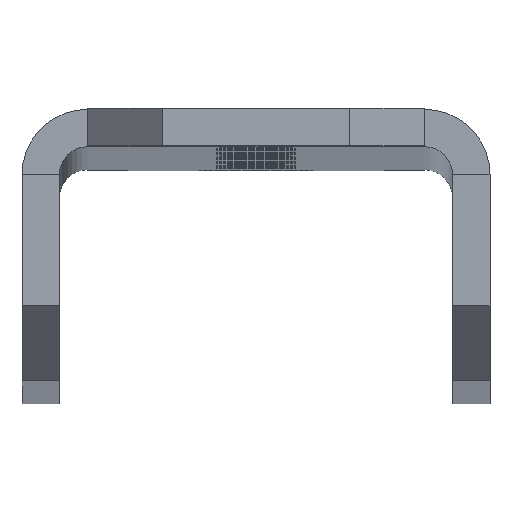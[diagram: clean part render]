
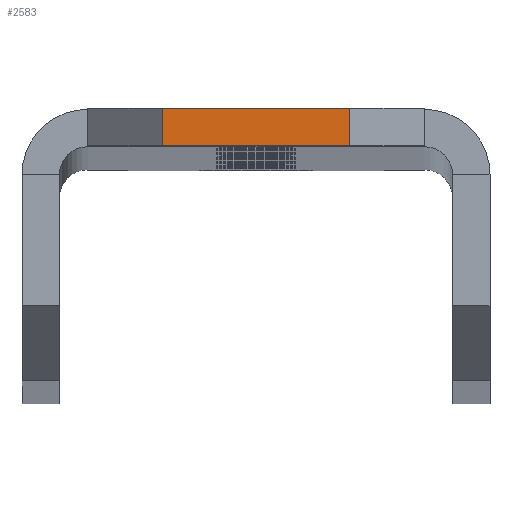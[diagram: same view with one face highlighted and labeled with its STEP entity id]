
A CAD part, top view. The second image highlights one B-rep face of the part: STEP entity #2583.
In plain terms, the highlighted planar face has unit normal (0, 0, 1).
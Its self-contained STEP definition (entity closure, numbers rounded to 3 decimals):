
#206 = VERTEX_POINT ( 'NONE', #2254 ) ;
#230 = ORIENTED_EDGE ( 'NONE', *, *, #3334, .T. ) ;
#506 = LINE ( 'NONE', #1172, #803 ) ;
#646 = EDGE_LOOP ( 'NONE', ( #2762, #230, #3855, #2182 ) ) ;
#771 = CARTESIAN_POINT ( 'NONE',  ( -5., -2., 380.155 ) ) ;
#803 = VECTOR ( 'NONE', #1541, 1000. ) ;
#949 = LINE ( 'NONE', #1373, #3585 ) ;
#963 = VERTEX_POINT ( 'NONE', #1654 ) ;
#1172 = CARTESIAN_POINT ( 'NONE',  ( 5., 0., 380.155 ) ) ;
#1262 = CARTESIAN_POINT ( 'NONE',  ( 9., 0., 380.155 ) ) ;
#1373 = CARTESIAN_POINT ( 'NONE',  ( 9., -2., 380.155 ) ) ;
#1416 = FACE_OUTER_BOUND ( 'NONE', #646, .T. ) ;
#1488 = DIRECTION ( 'NONE',  ( -1., 0., 0. ) ) ;
#1541 = DIRECTION ( 'NONE',  ( 0., 1., 0. ) ) ;
#1568 = DIRECTION ( 'NONE',  ( 0., -1., 0. ) ) ;
#1598 = LINE ( 'NONE', #1791, #3233 ) ;
#1654 = CARTESIAN_POINT ( 'NONE',  ( 5., 0., 380.155 ) ) ;
#1724 = DIRECTION ( 'NONE',  ( 0., -1., 0. ) ) ;
#1791 = CARTESIAN_POINT ( 'NONE',  ( 9., 0., 380.155 ) ) ;
#1883 = VECTOR ( 'NONE', #1724, 1000. ) ;
#1944 = EDGE_CURVE ( 'NONE', #2149, #3076, #2287, .T. ) ;
#1961 = AXIS2_PLACEMENT_3D ( 'NONE', #1262, #2887, #1568 ) ;
#2149 = VERTEX_POINT ( 'NONE', #3732 ) ;
#2182 = ORIENTED_EDGE ( 'NONE', *, *, #1944, .T. ) ;
#2254 = CARTESIAN_POINT ( 'NONE',  ( 5., -2., 380.155 ) ) ;
#2287 = LINE ( 'NONE', #3248, #1883 ) ;
#2302 = EDGE_CURVE ( 'NONE', #963, #2149, #1598, .T. ) ;
#2583 = ADVANCED_FACE ( 'NONE', ( #1416 ), #4106, .T. ) ;
#2741 = DIRECTION ( 'NONE',  ( -1., 0., 0. ) ) ;
#2762 = ORIENTED_EDGE ( 'NONE', *, *, #3219, .F. ) ;
#2887 = DIRECTION ( 'NONE',  ( 0., 0., 1. ) ) ;
#3076 = VERTEX_POINT ( 'NONE', #771 ) ;
#3219 = EDGE_CURVE ( 'NONE', #206, #3076, #949, .T. ) ;
#3233 = VECTOR ( 'NONE', #1488, 1000. ) ;
#3248 = CARTESIAN_POINT ( 'NONE',  ( -5., 0., 380.155 ) ) ;
#3334 = EDGE_CURVE ( 'NONE', #206, #963, #506, .T. ) ;
#3585 = VECTOR ( 'NONE', #2741, 1000. ) ;
#3732 = CARTESIAN_POINT ( 'NONE',  ( -5., 0., 380.155 ) ) ;
#3855 = ORIENTED_EDGE ( 'NONE', *, *, #2302, .T. ) ;
#4106 = PLANE ( 'NONE',  #1961 ) ;
